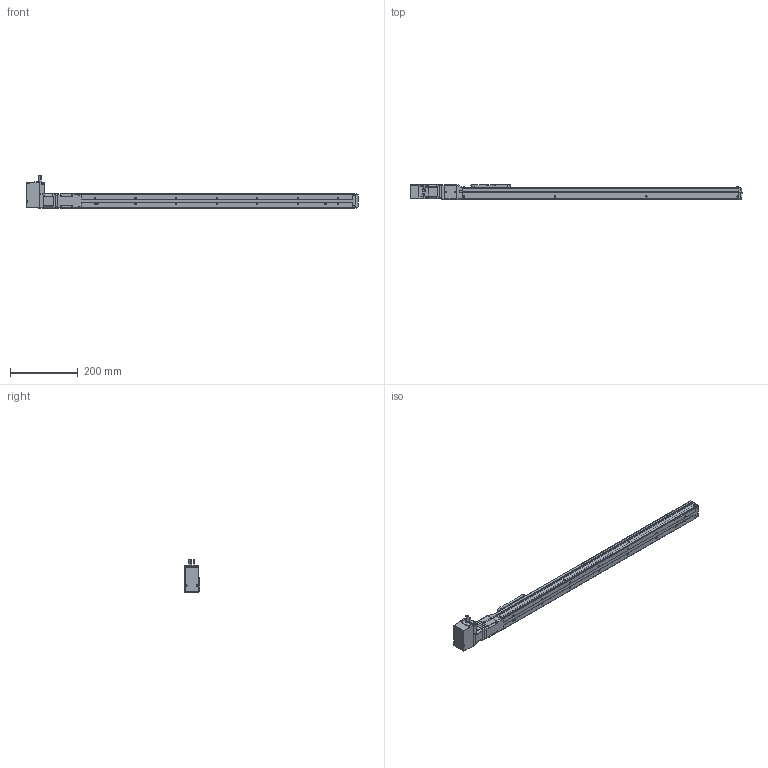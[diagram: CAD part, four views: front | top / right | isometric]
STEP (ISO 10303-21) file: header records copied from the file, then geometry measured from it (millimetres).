
FILE_DESCRIPTION(('FreeCAD Model'),'2;1');
FILE_NAME('Open CASCADE Shape Model','2023-08-01T18:11:06',('Author'),( ''),'Open CASCADE STEP processor 7.5','FreeCAD','Unknown');
FILE_SCHEMA(('AUTOMOTIVE_DESIGN { 1 0 10303 214 1 1 1 1 }'));
Length unit declared in the file: millimetre
Products named in the file (20): RCB0411; Shapes; Shapes001; Shapes002; Shapes003; Shapes004; Shapes005; Shapes006; Shapes007; Shapes008; Shapes009; Shapes010; Shapes011; Shapes012; Shapes013; KSF4-10-0650-0-AR(0); KSF4---(Cover); KSF4-AR---(Motor bracket); KSF4-10-0650---(slider); KSF4-10-0650-0-AR-(06500ARNo0)---(body)
Assembly tree (19 placements, depth 3):
  RCB0411
    Shapes
    Shapes001
    Shapes002
    Shapes003
    Shapes004
    Shapes005
    Shapes006
    Shapes007
    Shapes008
    Shapes009
    Shapes010
    Shapes011
    Shapes012
    Shapes013
    KSF4-10-0650-0-AR(0)
      KSF4---(Cover)
      KSF4-AR---(Motor bracket)
      KSF4-10-0650---(slider)
      KSF4-10-0650-0-AR-(06500ARNo0)---(body)
Bounding box: 982 x 46 x 98.19 mm (x, y, z)
Volume: 1561288 mm3; surface area: 293314.2 mm2
Topology: 18 solids, 18 shells, 1301 faces, 3354 edges, 2188 vertices
Faces by surface type: plane 719, cylinder 432, cone 68, torus 53, bspline 19, revolution 6, sphere 4
Full cylindrical faces by diameter (mm): 2.113 x8, 2.459 x3, 3 x6, 3.242 x4, 3.4 x18, 4 x3, 4.5 x2, 5.5 x8, 6 x1, 6.5 x20, 8 x1, 12 x1, 22 x1, 28 x1, 30 x2
Entity records: 94882 total; most frequent: CARTESIAN_POINT 27154, DIRECTION 12729, LINE 7559, VECTOR 7559, ORIENTED_EDGE 6672, PCURVE 6672, DEFINITIONAL_REPRESENTATION 6672, EDGE_CURVE 3336
